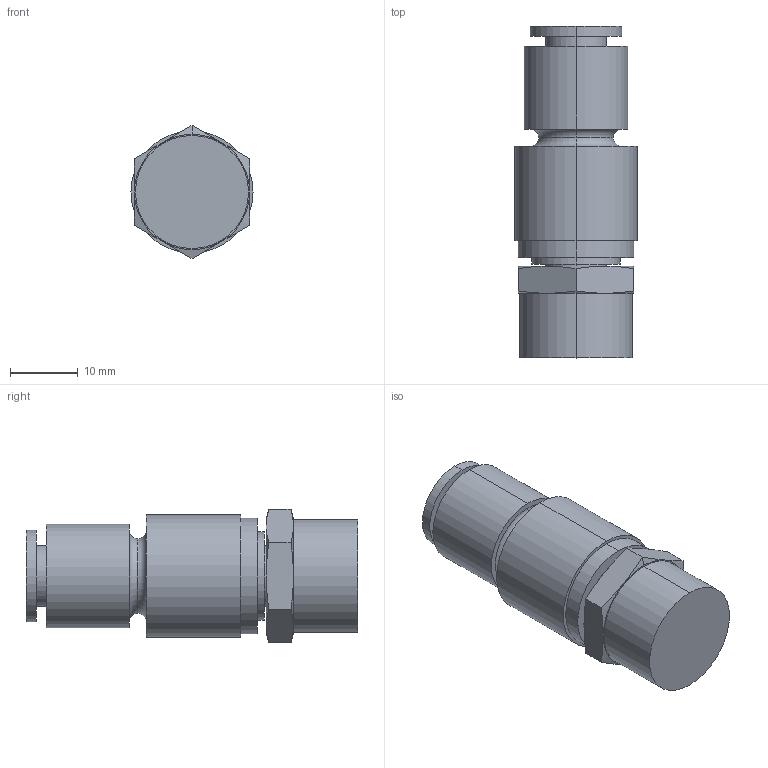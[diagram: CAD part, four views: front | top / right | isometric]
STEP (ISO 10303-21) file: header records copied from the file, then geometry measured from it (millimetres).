
FILE_DESCRIPTION (( 'STEP AP203' ), '1' );
FILE_NAME ('FKXH08-03.STEP', '2022-04-18T15:18:43', ( '' ), ( '' ), 'SwSTEP 2.0', 'SolidWorks 2019', '' );
FILE_SCHEMA (( 'CONFIG_CONTROL_DESIGN' ));
Length unit declared in the file: millimetre
Products named in the file (1): FKXH08-03
Bounding box: 18 x 48.9 x 19.63 mm (x, y, z)
Volume: 9180 mm3; surface area: 4107.6 mm2
Topology: 1 solids, 1 shells, 54 faces, 110 edges, 68 vertices
Faces by surface type: cylinder 18, plane 18, cone 14, torus 4
Entity records: 1755 total; most frequent: CARTESIAN_POINT 533, DIRECTION 256, ORIENTED_EDGE 220, AXIS2_PLACEMENT_3D 115, EDGE_CURVE 110, VERTEX_POINT 68, EDGE_LOOP 64, CIRCLE 60
